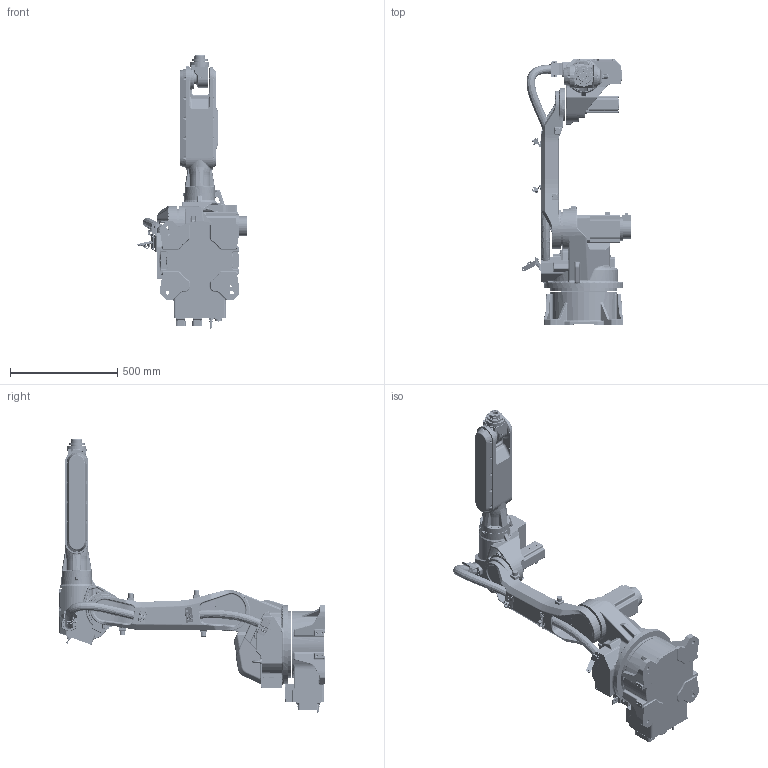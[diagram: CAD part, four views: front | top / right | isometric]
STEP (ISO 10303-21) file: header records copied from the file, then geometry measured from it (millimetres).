
FILE_DESCRIPTION((''),'2;1');
FILE_NAME('R6-1_ASM','2020-09-25T15:07:22',('Administrator'),(''),'CREO PARAMETRIC BY PTC INC, 2018260','CREO PARAMETRIC BY PTC INC, 2018260','');
FILE_SCHEMA(('CONFIG_CONTROL_DESIGN','SHAPE_APPEARANCE_LAYERS_GROUPS'));
Products named in the file (9): R6-1_BASE; R6-1_JOINT1; R6-1_JOINT2; R6-1_JOINT3; R6-1_JOINT4; R6-1_JOINT5; R6-1_JOINT6; R6-1_CABLE; R6-1_ASM
Assembly tree (8 placements, depth 2):
  R6-1_ASM
    R6-1_BASE
    R6-1_JOINT1
    R6-1_JOINT2
    R6-1_JOINT3
    R6-1_JOINT4
    R6-1_JOINT5
    R6-1_JOINT6
    R6-1_CABLE
Bounding box: 508.71 x 1243.5 x 1274 mm (x, y, z)
Volume: 64565174.9 mm3; surface area: 3476289.9 mm2
Topology: 8 solids, 47 shells, 7278 faces, 18268 edges, 11157 vertices
Faces by surface type: cylinder 2628, plane 1891, bspline 1304, torus 743, cone 610, sphere 102
Entity records: 280179 total; most frequent: CARTESIAN_POINT 113084, ORIENTED_EDGE 36076, DIRECTION 33953, EDGE_CURVE 18042, AXIS2_PLACEMENT_3D 13487, VERTEX_POINT 11156, EDGE_LOOP 7768, CIRCLE 7494
